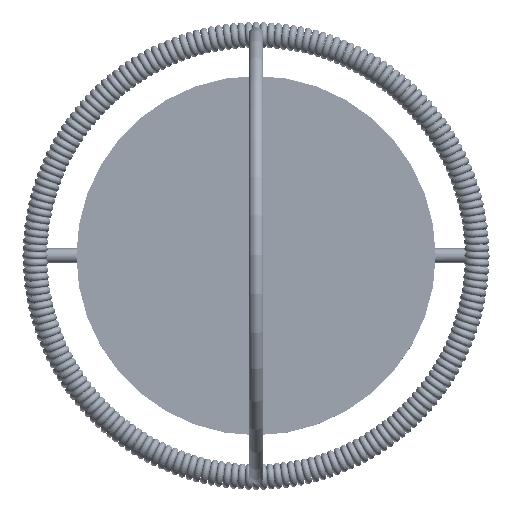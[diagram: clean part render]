
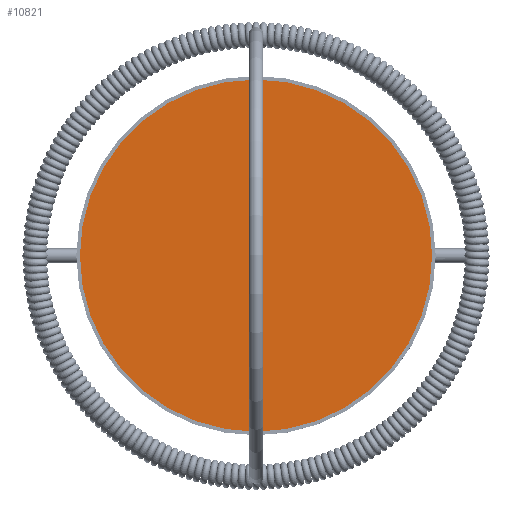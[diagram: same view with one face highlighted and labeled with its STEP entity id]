
A CAD part, top view. The second image highlights one B-rep face of the part: STEP entity #10821.
In plain terms, the highlighted planar face has unit normal (0, 0, 1).
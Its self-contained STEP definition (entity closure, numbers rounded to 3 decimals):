
#675=PLANE('',#12469);
#1981=FACE_OUTER_BOUND('',#3119,.T.);
#3119=EDGE_LOOP('',(#9905));
#4173=CIRCLE('',#12468,98.);
#5259=VERTEX_POINT('',#40236);
#6809=EDGE_CURVE('',#5259,#5259,#4173,.T.);
#9905=ORIENTED_EDGE('',*,*,#6809,.F.);
#10821=ADVANCED_FACE('',(#1981),#675,.T.);
#12468=AXIS2_PLACEMENT_3D('',#40238,#15658,#15659);
#12469=AXIS2_PLACEMENT_3D('',#40239,#15660,#15661);
#15658=DIRECTION('center_axis',(0.,0.,-1.));
#15659=DIRECTION('ref_axis',(-1.,0.,0.));
#15660=DIRECTION('center_axis',(0.,0.,1.));
#15661=DIRECTION('ref_axis',(-1.,0.,0.));
#40236=CARTESIAN_POINT('',(98.,0.,308.));
#40238=CARTESIAN_POINT('Origin',(0.,0.,308.));
#40239=CARTESIAN_POINT('Origin',(0.,0.,308.));
